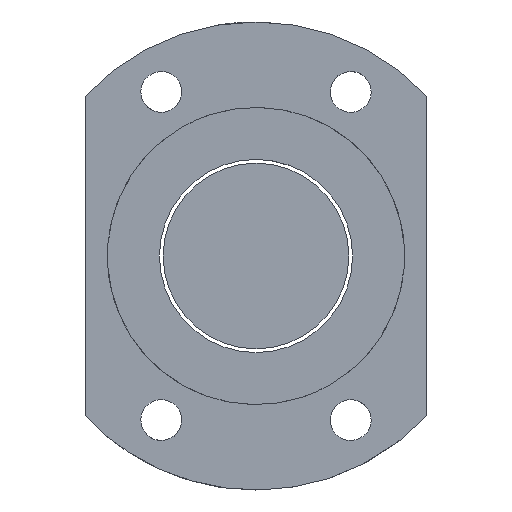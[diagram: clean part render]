
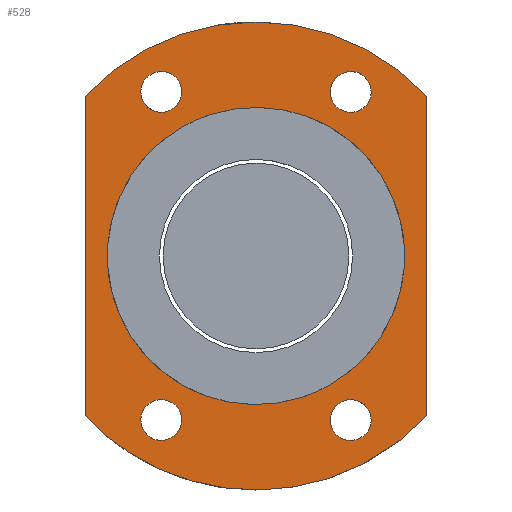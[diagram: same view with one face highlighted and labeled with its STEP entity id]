
A CAD part, left-side view. The second image highlights one B-rep face of the part: STEP entity #528.
In plain terms, the highlighted planar face has unit normal (-1, 0, 0).
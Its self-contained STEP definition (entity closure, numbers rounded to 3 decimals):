
#173=CARTESIAN_POINT('Vertex',(-11.,-23.,21.523)) ;
#187=CARTESIAN_POINT('Vertex',(-11.,23.,21.523)) ;
#190=CARTESIAN_POINT('Axis2P3D Location',(-11.,0.,0.)) ;
#255=CARTESIAN_POINT('Line Origine',(-11.,-23.,0.)) ;
#259=CARTESIAN_POINT('Vertex',(-11.,-23.,-21.523)) ;
#391=CARTESIAN_POINT('Line Origine',(-11.,23.,0.)) ;
#395=CARTESIAN_POINT('Vertex',(-11.,23.,-21.523)) ;
#410=CARTESIAN_POINT('Axis2P3D Location',(-11.,0.,66.513)) ;
#416=CARTESIAN_POINT('Control Point',(-11.,-23.,-21.523)) ;
#417=CARTESIAN_POINT('Control Point',(-11.,-20.933,-23.732)) ;
#418=CARTESIAN_POINT('Control Point',(-11.,-18.602,-25.692)) ;
#419=CARTESIAN_POINT('Control Point',(-11.,-16.045,-27.362)) ;
#420=CARTESIAN_POINT('Control Point',(-11.,-10.58,-30.055)) ;
#421=CARTESIAN_POINT('Control Point',(-11.,-4.633,-31.379)) ;
#422=CARTESIAN_POINT('Control Point',(-11.,-1.594,-31.679)) ;
#423=CARTESIAN_POINT('Control Point',(-11.,4.497,-31.544)) ;
#424=CARTESIAN_POINT('Control Point',(-11.,10.383,-29.972)) ;
#425=CARTESIAN_POINT('Control Point',(-11.,13.217,-28.834)) ;
#426=CARTESIAN_POINT('Control Point',(-11.,16.982,-26.766)) ;
#427=CARTESIAN_POINT('Control Point',(-11.,20.327,-24.112)) ;
#428=CARTESIAN_POINT('Control Point',(-11.,21.261,-23.293)) ;
#429=CARTESIAN_POINT('Control Point',(-11.,22.153,-22.429)) ;
#430=CARTESIAN_POINT('Control Point',(-11.,23.,-21.523)) ;
#438=CARTESIAN_POINT('Axis2P3D Location',(-11.,12.75,-22.084)) ;
#442=CARTESIAN_POINT('Vertex',(-11.,15.163,-23.402)) ;
#444=CARTESIAN_POINT('Vertex',(-11.,10.337,-20.765)) ;
#447=CARTESIAN_POINT('Axis2P3D Location',(-11.,12.75,-22.084)) ;
#456=CARTESIAN_POINT('Axis2P3D Location',(-11.,-12.75,-22.084)) ;
#460=CARTESIAN_POINT('Vertex',(-11.,-15.163,-20.765)) ;
#462=CARTESIAN_POINT('Vertex',(-11.,-10.337,-23.402)) ;
#465=CARTESIAN_POINT('Axis2P3D Location',(-11.,-12.75,-22.084)) ;
#474=CARTESIAN_POINT('Axis2P3D Location',(-11.,-12.75,22.084)) ;
#478=CARTESIAN_POINT('Vertex',(-11.,-15.163,23.402)) ;
#480=CARTESIAN_POINT('Vertex',(-11.,-10.337,20.765)) ;
#483=CARTESIAN_POINT('Axis2P3D Location',(-11.,-12.75,22.084)) ;
#492=CARTESIAN_POINT('Axis2P3D Location',(-11.,12.75,22.084)) ;
#496=CARTESIAN_POINT('Vertex',(-11.,15.163,20.765)) ;
#498=CARTESIAN_POINT('Vertex',(-11.,10.337,23.402)) ;
#501=CARTESIAN_POINT('Axis2P3D Location',(-11.,12.75,22.084)) ;
#510=CARTESIAN_POINT('Axis2P3D Location',(-11.,0.,0.)) ;
#514=CARTESIAN_POINT('Vertex',(-11.,9.589,17.552)) ;
#516=CARTESIAN_POINT('Vertex',(-11.,-9.589,-17.552)) ;
#519=CARTESIAN_POINT('Axis2P3D Location',(-11.,0.,0.)) ;
#191=DIRECTION('Axis2P3D Direction',(1.,0.,0.)) ;
#256=DIRECTION('Vector Direction',(0.,0.,-1.)) ;
#392=DIRECTION('Vector Direction',(0.,0.,1.)) ;
#411=DIRECTION('Axis2P3D Direction',(-1.,0.,0.)) ;
#412=DIRECTION('Axis2P3D XDirection',(0.,1.,0.)) ;
#439=DIRECTION('Axis2P3D Direction',(-1.,0.,0.)) ;
#448=DIRECTION('Axis2P3D Direction',(-1.,0.,0.)) ;
#457=DIRECTION('Axis2P3D Direction',(-1.,0.,0.)) ;
#466=DIRECTION('Axis2P3D Direction',(-1.,0.,0.)) ;
#475=DIRECTION('Axis2P3D Direction',(-1.,0.,0.)) ;
#484=DIRECTION('Axis2P3D Direction',(-1.,0.,0.)) ;
#493=DIRECTION('Axis2P3D Direction',(-1.,0.,0.)) ;
#502=DIRECTION('Axis2P3D Direction',(-1.,0.,0.)) ;
#511=DIRECTION('Axis2P3D Direction',(-1.,0.,0.)) ;
#520=DIRECTION('Axis2P3D Direction',(-1.,0.,0.)) ;
#192=AXIS2_PLACEMENT_3D('Circle Axis2P3D',#190,#191,$) ;
#413=AXIS2_PLACEMENT_3D('Plane Axis2P3D',#410,#411,#412) ;
#440=AXIS2_PLACEMENT_3D('Circle Axis2P3D',#438,#439,$) ;
#449=AXIS2_PLACEMENT_3D('Circle Axis2P3D',#447,#448,$) ;
#458=AXIS2_PLACEMENT_3D('Circle Axis2P3D',#456,#457,$) ;
#467=AXIS2_PLACEMENT_3D('Circle Axis2P3D',#465,#466,$) ;
#476=AXIS2_PLACEMENT_3D('Circle Axis2P3D',#474,#475,$) ;
#485=AXIS2_PLACEMENT_3D('Circle Axis2P3D',#483,#484,$) ;
#494=AXIS2_PLACEMENT_3D('Circle Axis2P3D',#492,#493,$) ;
#503=AXIS2_PLACEMENT_3D('Circle Axis2P3D',#501,#502,$) ;
#512=AXIS2_PLACEMENT_3D('Circle Axis2P3D',#510,#511,$) ;
#521=AXIS2_PLACEMENT_3D('Circle Axis2P3D',#519,#520,$) ;
#433=ORIENTED_EDGE('',*,*,#194,.T.) ;
#434=ORIENTED_EDGE('',*,*,#397,.F.) ;
#435=ORIENTED_EDGE('',*,*,#431,.T.) ;
#436=ORIENTED_EDGE('',*,*,#261,.F.) ;
#453=ORIENTED_EDGE('',*,*,#446,.F.) ;
#454=ORIENTED_EDGE('',*,*,#451,.F.) ;
#471=ORIENTED_EDGE('',*,*,#464,.F.) ;
#472=ORIENTED_EDGE('',*,*,#469,.F.) ;
#489=ORIENTED_EDGE('',*,*,#482,.F.) ;
#490=ORIENTED_EDGE('',*,*,#487,.F.) ;
#507=ORIENTED_EDGE('',*,*,#500,.F.) ;
#508=ORIENTED_EDGE('',*,*,#505,.F.) ;
#525=ORIENTED_EDGE('',*,*,#518,.F.) ;
#526=ORIENTED_EDGE('',*,*,#523,.F.) ;
#455=FACE_BOUND('',#452,.T.) ;
#473=FACE_BOUND('',#470,.T.) ;
#491=FACE_BOUND('',#488,.T.) ;
#509=FACE_BOUND('',#506,.T.) ;
#527=FACE_BOUND('',#524,.T.) ;
#257=VECTOR('Line Direction',#256,1.) ;
#393=VECTOR('Line Direction',#392,1.) ;
#528=ADVANCED_FACE('NUT',(#437,#455,#473,#491,#509,#527),#414,.T.) ;
#415=B_SPLINE_CURVE_WITH_KNOTS('',5,(#416,#417,#418,#419,#420,#421,#422,#423,#424,#425,#426,#427,#428,#429,#430),.UNSPECIFIED.,.F.,.U.,(6,3,3,3,6),(0.,21.386,42.772,64.159,72.929),.UNSPECIFIED.) ;
#193=CIRCLE('generated circle',#192,31.5) ;
#441=CIRCLE('generated circle',#440,2.75) ;
#450=CIRCLE('generated circle',#449,2.75) ;
#459=CIRCLE('generated circle',#458,2.75) ;
#468=CIRCLE('generated circle',#467,2.75) ;
#477=CIRCLE('generated circle',#476,2.75) ;
#486=CIRCLE('generated circle',#485,2.75) ;
#495=CIRCLE('generated circle',#494,2.75) ;
#504=CIRCLE('generated circle',#503,2.75) ;
#513=CIRCLE('generated circle',#512,20.) ;
#522=CIRCLE('generated circle',#521,20.) ;
#194=EDGE_CURVE('',#174,#188,#193,.F.) ;
#261=EDGE_CURVE('',#174,#260,#258,.T.) ;
#397=EDGE_CURVE('',#396,#188,#394,.T.) ;
#431=EDGE_CURVE('',#396,#260,#415,.F.) ;
#446=EDGE_CURVE('',#443,#445,#441,.T.) ;
#451=EDGE_CURVE('',#445,#443,#450,.T.) ;
#464=EDGE_CURVE('',#461,#463,#459,.T.) ;
#469=EDGE_CURVE('',#463,#461,#468,.T.) ;
#482=EDGE_CURVE('',#479,#481,#477,.T.) ;
#487=EDGE_CURVE('',#481,#479,#486,.T.) ;
#500=EDGE_CURVE('',#497,#499,#495,.T.) ;
#505=EDGE_CURVE('',#499,#497,#504,.T.) ;
#518=EDGE_CURVE('',#515,#517,#513,.T.) ;
#523=EDGE_CURVE('',#517,#515,#522,.T.) ;
#432=EDGE_LOOP('',(#433,#434,#435,#436)) ;
#452=EDGE_LOOP('',(#453,#454)) ;
#470=EDGE_LOOP('',(#471,#472)) ;
#488=EDGE_LOOP('',(#489,#490)) ;
#506=EDGE_LOOP('',(#507,#508)) ;
#524=EDGE_LOOP('',(#525,#526)) ;
#437=FACE_OUTER_BOUND('',#432,.T.) ;
#258=LINE('Line',#255,#257) ;
#394=LINE('Line',#391,#393) ;
#414=PLANE('',#413) ;
#174=VERTEX_POINT('',#173) ;
#188=VERTEX_POINT('',#187) ;
#260=VERTEX_POINT('',#259) ;
#396=VERTEX_POINT('',#395) ;
#443=VERTEX_POINT('',#442) ;
#445=VERTEX_POINT('',#444) ;
#461=VERTEX_POINT('',#460) ;
#463=VERTEX_POINT('',#462) ;
#479=VERTEX_POINT('',#478) ;
#481=VERTEX_POINT('',#480) ;
#497=VERTEX_POINT('',#496) ;
#499=VERTEX_POINT('',#498) ;
#515=VERTEX_POINT('',#514) ;
#517=VERTEX_POINT('',#516) ;
